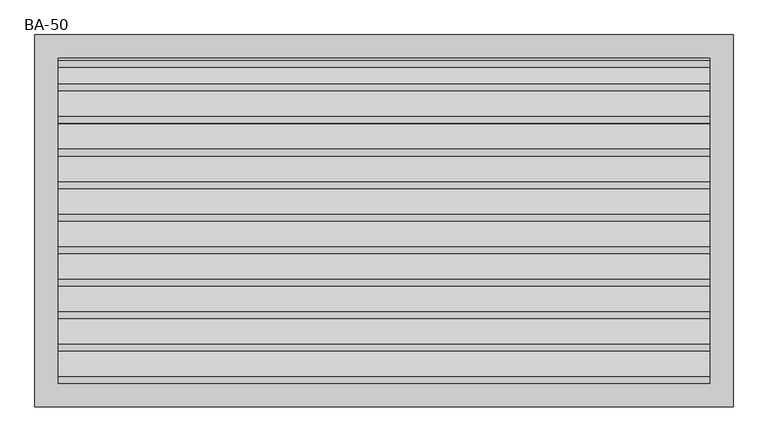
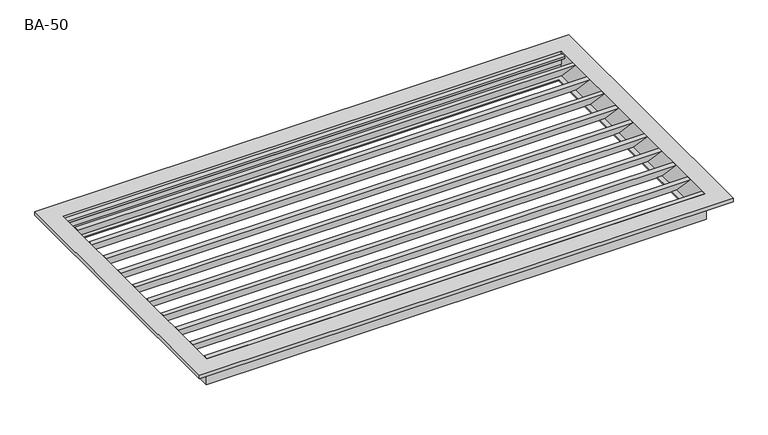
"""IFC4 building model written with IfcOpenShell, lengths in millimetres: air terminal geometry, AIR_FB_Outside air grille BA_SMA : BA-50."""

from ifc_helpers import new_model, si_unit, frame, origin, place, context, project, spatial, polyline, outline, extrude, faceted_brep, source, transform, mapped, element, save


def ba_50_fd4936a4(model_context):
    return source(origin(), model_context, "Body", "SolidModel", [
        extrude(outline(polyline([(210.0694981, 7.5), (210.0694981, 6.1939238), (202.3735338, 6.1939238), (249.9430991, -44.3), (258.800293, -44.3), (258.800293, -42.0069251), (255.903107, -39.1097391), (256.7462329, -38.2666133), (259.9828093, -41.5031897), (259.9828093, -45.5), (250.0, -45.5), (200.0694981, 7.5), (210.0694981, 7.5)])), frame((-500.0, 0.0, 0.0), z_axis=(1.0, 0.0, 0.0), x_axis=(0.0, 1.0, 0.0)), (0.0, 0.0, 1.0), 1000.0),
        extrude(outline(polyline([(160.0694981, 7.5), (160.0694981, 6.1939238), (152.3735338, 6.1939238), (199.9430991, -44.3), (208.800293, -44.3), (208.800293, -42.0069251), (205.903107, -39.1097391), (206.7462329, -38.2666133), (209.9828093, -41.5031897), (209.9828093, -45.5), (200.0, -45.5), (150.0694981, 7.5), (160.0694981, 7.5)])), frame((-500.0, 0.0, 0.0), z_axis=(1.0, 0.0, 0.0), x_axis=(0.0, 1.0, 0.0)), (0.0, 0.0, 1.0), 1000.0),
        extrude(outline(polyline([(110.0694981, 7.5), (110.0694981, 6.1939238), (102.3735338, 6.1939238), (149.9430991, -44.3), (158.800293, -44.3), (158.800293, -42.0069251), (155.903107, -39.1097391), (156.7462329, -38.2666133), (159.9828093, -41.5031897), (159.9828093, -45.5), (150.0, -45.5), (100.0694981, 7.5), (110.0694981, 7.5)])), frame((-500.0, 0.0, 0.0), z_axis=(1.0, 0.0, 0.0), x_axis=(0.0, 1.0, 0.0)), (0.0, 0.0, 1.0), 1000.0),
        extrude(outline(polyline([(60.0694981, 7.5), (60.0694981, 6.1939238), (52.3735338, 6.1939238), (99.9430991, -44.3), (108.800293, -44.3), (108.800293, -42.0069251), (105.903107, -39.1097391), (106.7462329, -38.2666133), (109.9828093, -41.5031897), (109.9828093, -45.5), (100.0, -45.5), (50.0694981, 7.5), (60.0694981, 7.5)])), frame((-500.0, 0.0, 0.0), z_axis=(1.0, 0.0, 0.0), x_axis=(0.0, 1.0, 0.0)), (0.0, 0.0, 1.0), 1000.0),
        extrude(outline(polyline([(10.0694981, 7.5), (10.0694981, 6.1939238), (2.3735338, 6.1939238), (49.9430991, -44.3), (58.800293, -44.3), (58.800293, -42.0069251), (55.903107, -39.1097391), (56.7462329, -38.2666133), (59.9828093, -41.5031897), (59.9828093, -45.5), (50.0, -45.5), (0.0694981, 7.5), (10.0694981, 7.5)])), frame((-500.0, 0.0, 0.0), z_axis=(1.0, 0.0, 0.0), x_axis=(0.0, 1.0, 0.0)), (0.0, 0.0, 1.0), 1000.0),
        extrude(outline(polyline([(-39.9305019, 7.5), (-39.9305019, 6.1939238), (-47.6264662, 6.1939238), (-0.0569009, -44.3), (8.800293, -44.3), (8.800293, -42.0069251), (5.903107, -39.1097391), (6.7462329, -38.2666133), (9.9828093, -41.5031897), (9.9828093, -45.5), (0.0, -45.5), (-49.9305019, 7.5), (-39.9305019, 7.5)])), frame((-500.0, 0.0, 0.0), z_axis=(1.0, 0.0, 0.0), x_axis=(0.0, 1.0, 0.0)), (0.0, 0.0, 1.0), 1000.0),
        extrude(outline(polyline([(-89.9305019, 7.5), (-89.9305019, 6.1939238), (-97.6264662, 6.1939238), (-50.0569009, -44.3), (-41.199707, -44.3), (-41.199707, -42.0069251), (-44.096893, -39.1097391), (-43.2537671, -38.2666133), (-40.0171907, -41.5031897), (-40.0171907, -45.5), (-50.0, -45.5), (-99.9305019, 7.5), (-89.9305019, 7.5)])), frame((-500.0, 0.0, 0.0), z_axis=(1.0, 0.0, 0.0), x_axis=(0.0, 1.0, 0.0)), (0.0, 0.0, 1.0), 1000.0),
        extrude(outline(polyline([(-139.9305019, 7.5), (-139.9305019, 6.1939238), (-147.6264662, 6.1939238), (-100.0569009, -44.3), (-91.199707, -44.3), (-91.199707, -42.0069251), (-94.096893, -39.1097391), (-93.2537671, -38.2666133), (-90.0171907, -41.5031897), (-90.0171907, -45.5), (-100.0, -45.5), (-149.9305019, 7.5), (-139.9305019, 7.5)])), frame((-500.0, 0.0, 0.0), z_axis=(1.0, 0.0, 0.0), x_axis=(0.0, 1.0, 0.0)), (0.0, 0.0, 1.0), 1000.0),
        extrude(outline(polyline([(-189.9305019, 7.5), (-189.9305019, 6.1939238), (-197.6264662, 6.1939238), (-150.0569009, -44.3), (-141.199707, -44.3), (-141.199707, -42.0069251), (-144.096893, -39.1097391), (-143.2537671, -38.2666133), (-140.0171907, -41.5031897), (-140.0171907, -45.5), (-150.0, -45.5), (-199.9305019, 7.5), (-189.9305019, 7.5)])), frame((-500.0, 0.0, 0.0), z_axis=(1.0, 0.0, 0.0), x_axis=(0.0, 1.0, 0.0)), (0.0, 0.0, 1.0), 1000.0),
        extrude(outline(polyline([(-239.9305019, 7.5), (-239.9305019, 6.1939238), (-247.6264662, 6.1939238), (-200.0569009, -44.3), (-191.199707, -44.3), (-191.199707, -42.0069251), (-194.096893, -39.1097391), (-193.2537671, -38.2666133), (-190.0171907, -41.5031897), (-190.0171907, -45.5), (-200.0, -45.5), (-249.9305019, 7.5), (-239.9305019, 7.5)])), frame((-500.0, 0.0, 0.0), z_axis=(1.0, 0.0, 0.0), x_axis=(0.0, 1.0, 0.0)), (0.0, 0.0, 1.0), 1000.0),
        extrude(outline(polyline([(246.070888, 4.800074), (250.0, 0.870962), (250.0, -20.199926), (249.0, -20.199926), (249.0, 0.252385), (245.57333, 3.600122), (237.270717, 3.600122), (237.270717, 1.297144), (240.44955, -1.881811), (239.600795, -2.729711), (236.070766, 0.799585), (236.070766, 4.800074), (246.070888, 4.800074)])), frame((-500.0, 0.0, 0.0), z_axis=(1.0, 0.0, 0.0), x_axis=(0.0, 1.0, 0.0)), (0.0, 0.0, 1.0), 1000.0),
        faceted_brep([(490.0, 240.0, -43.5), (490.0, 240.0, -45.5), (490.0, -240.0, -45.5), (490.0, -240.0, -43.5), (500.0, 250.0, 7.5), (500.0, 250.0, -43.5), (500.0, -250.0, -43.5), (500.0, -250.0, 7.5), (536.0, 286.0, 0.0), (536.0, 286.0, 7.5), (536.0, -286.0, 7.5), (536.0, -286.0, 0.0), (533.000015, 283.000015, 1.300049), (533.000015, 283.000015, 0.0), (533.000015, -283.000015, 0.0), (533.000015, -283.000015, 1.300049), (534.000015, 284.000015, 5.5), (534.000015, 284.000015, 1.300049), (534.000015, -284.000015, 1.300049), (534.000015, -284.000015, 5.5), (502.000122, 252.000122, 1.300049), (502.000122, 252.000122, 5.5), (502.000122, -252.000122, 5.5), (502.000122, -252.000122, 1.300049), (503.0, 253.0, 0.0), (503.0, 253.0, 1.300049), (503.0, -253.0, 1.300049), (503.0, -253.0, 0.0), (502.000122, 252.000122, -45.5), (502.000122, 252.000122, 0.0), (502.000122, -252.000122, 0.0), (502.000122, -252.000122, -45.5), (-490.0, -240.0, -45.5), (-490.0, -240.0, -43.5), (-500.0, -250.0, -43.5), (-500.0, -250.0, 7.5), (-536.0, -286.0, 7.5), (-536.0, -286.0, 0.0), (-533.000015, -283.000015, 0.0), (-533.000015, -283.000015, 1.300049), (-534.000015, -284.000015, 1.300049), (-534.000015, -284.000015, 5.5), (-502.000122, -252.000122, 5.5), (-502.000122, -252.000122, 1.300049), (-503.0, -253.0, 1.300049), (-503.0, -253.0, 0.0), (-502.000122, -252.000122, 0.0), (-502.000122, -252.000122, -45.5), (-490.0, 240.0, -45.5), (-490.0, 240.0, -43.5), (-500.0, 250.0, -43.5), (-500.0, 250.0, 7.5), (-536.0, 286.0, 7.5), (-536.0, 286.0, 0.0), (-533.000015, 283.000015, 0.0), (-533.000015, 283.000015, 1.300049), (-534.000015, 284.000015, 1.300049), (-534.000015, 284.000015, 5.5), (-502.000122, 252.000122, 5.5), (-502.000122, 252.000122, 1.300049), (-503.0, 253.0, 1.300049), (-503.0, 253.0, 0.0), (-502.000122, 252.000122, 0.0), (-502.000122, 252.000122, -45.5)], [[[0, 1, 2, 3]], [[4, 5, 6, 7]], [[8, 9, 10, 11]], [[12, 13, 14, 15]], [[16, 17, 18, 19]], [[20, 21, 22, 23]], [[24, 25, 26, 27]], [[28, 29, 30, 31]], [[3, 2, 32, 33]], [[7, 6, 34, 35]], [[11, 10, 36, 37]], [[15, 14, 38, 39]], [[19, 18, 40, 41]], [[23, 22, 42, 43]], [[27, 26, 44, 45]], [[31, 30, 46, 47]], [[33, 32, 48, 49]], [[35, 34, 50, 51]], [[37, 36, 52, 53]], [[39, 38, 54, 55]], [[41, 40, 56, 57]], [[43, 42, 58, 59]], [[45, 44, 60, 61]], [[47, 46, 62, 63]], [[31, 47, 63, 28], [1, 48, 32, 2]], [[49, 48, 1, 0]], [[5, 50, 34, 6], [3, 33, 49, 0]], [[51, 50, 5, 4]], [[9, 52, 36, 10], [7, 35, 51, 4]], [[53, 52, 9, 8]], [[11, 37, 53, 8], [13, 54, 38, 14]], [[55, 54, 13, 12]], [[17, 56, 40, 18], [15, 39, 55, 12]], [[57, 56, 17, 16]], [[19, 41, 57, 16], [21, 58, 42, 22]], [[59, 58, 21, 20]], [[25, 60, 44, 26], [23, 43, 59, 20]], [[61, 60, 25, 24]], [[27, 45, 61, 24], [29, 62, 46, 30]], [[63, 62, 29, 28]]]),
    ])


if __name__ == "__main__":
    model = new_model("IFC4")
    model_context = context("Model", 3, world=origin())
    ifc_project = project(units=[si_unit("LENGTHUNIT", "METRE", prefix="MILLI")], contexts=[model_context])
    site = spatial("IfcSite", under=ifc_project)
    building = spatial("IfcBuilding", under=site)
    placement = place(None, origin())
    ba_50_shape = ba_50_fd4936a4(model_context)
    element("IfcAirTerminal", 1, ObjectType="AIR_FB_Outside air grille BA_SMA : BA-50", at=placement, inside=building, context=model_context, shape_type="MappedRepresentation", body=[
        mapped(ba_50_shape, transform((0.0, 0.0, 0.0), x_axis=(1.0, 0.0, 0.0), y_axis=(0.0, 1.0, 0.0), z_axis=(0.0, 0.0, 1.0))),
    ])
    save(model, "model.ifc")
